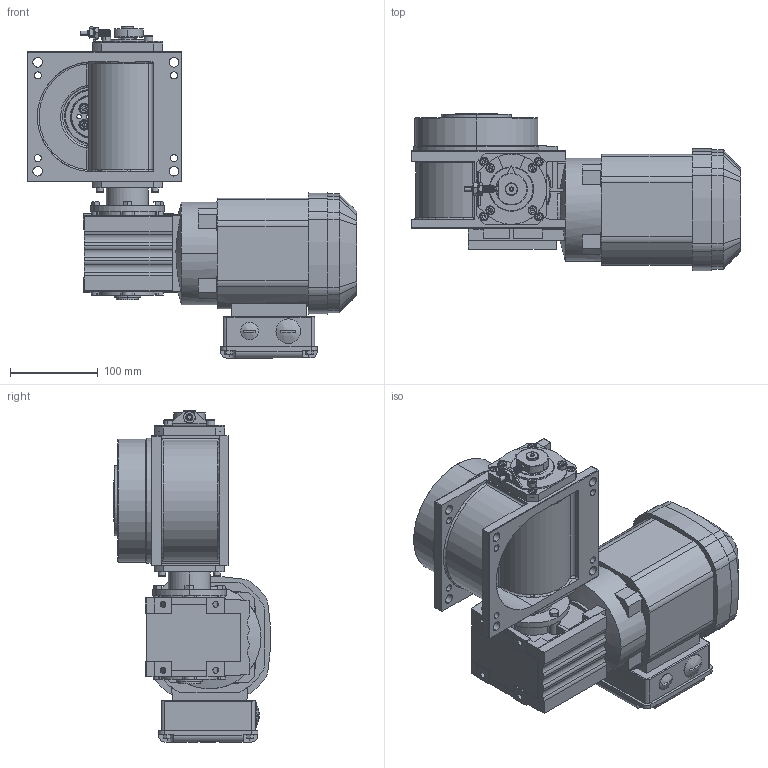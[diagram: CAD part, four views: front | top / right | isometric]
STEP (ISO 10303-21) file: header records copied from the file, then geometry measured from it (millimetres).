
FILE_DESCRIPTION (( 'STEP AP214' ), '1' );
FILE_NAME ('M140_SEW_WA20DRS71S4_D3.STEP', '2021-01-22T15:27:09', ( '' ), ( '' ), 'SwSTEP 2.0', 'SolidWorks 2020', '' );
FILE_SCHEMA (( 'AUTOMOTIVE_DESIGN' ));
Length unit declared in the file: millimetre
Products named in the file (1): M140_SEW_WA20DRS71S4_D3
Bounding box: 375 x 178.34 x 377.75 mm (x, y, z)
Surface area: 415448.2 mm2 (no closed solid volume)
Topology: 0 solids, 46 shells, 1108 faces, 3439 edges, 2293 vertices
Faces by surface type: plane 506, cylinder 402, cone 88, bspline 64, torus 48
Entity records: 57192 total; most frequent: CARTESIAN_POINT 15010, DIRECTION 6195, ORIENTED_EDGE 5945, EDGE_CURVE 3420, VERTEX_POINT 2293, AXIS2_PLACEMENT_3D 2159, VECTOR 1877, LINE 1877
